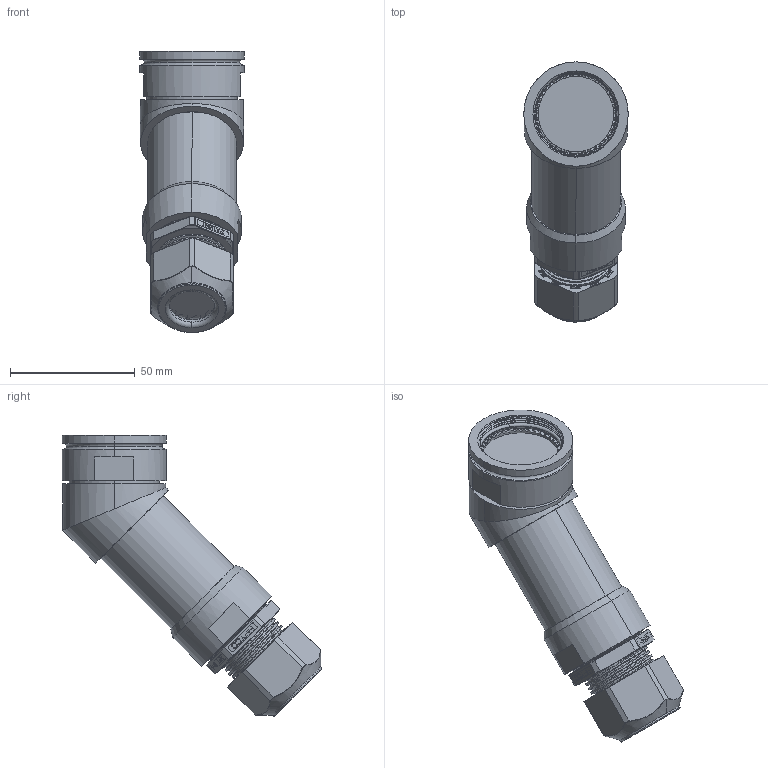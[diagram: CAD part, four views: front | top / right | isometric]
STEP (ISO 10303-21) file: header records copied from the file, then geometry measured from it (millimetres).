
FILE_DESCRIPTION (( 'STEP AP214' ), '1' );
FILE_NAME ('Q38SHELL-45X-23-XXXX-GL.STEP', '2025-09-26T14:35:46', ( '' ), ( '' ), 'SwSTEP 2.0', 'SolidWorks 2024', '' );
FILE_SCHEMA (( 'AUTOMOTIVE_DESIGN' ));
Length unit declared in the file: millimetre
Products named in the file (1): Q38SHELL-45X-23-XXXX-GL
Bounding box: 41.78 x 104.04 x 112.6 mm (x, y, z)
Surface area: 38583 mm2 (no closed solid volume)
Topology: 0 solids, 8 shells, 1378 faces, 3712 edges, 2402 vertices
Faces by surface type: plane 739, cylinder 241, bspline 140, torus 121, cone 117, sphere 20
Entity records: 64134 total; most frequent: CARTESIAN_POINT 36420, ORIENTED_EDGE 7375, EDGE_CURVE 3712, DIRECTION 3352, B_SPLINE_CURVE_WITH_KNOTS 2837, VERTEX_POINT 2402, AXIS2_PLACEMENT_3D 1529, EDGE_LOOP 1448
